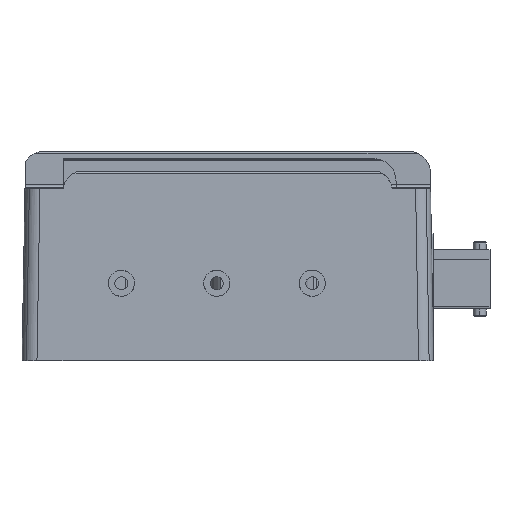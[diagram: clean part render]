
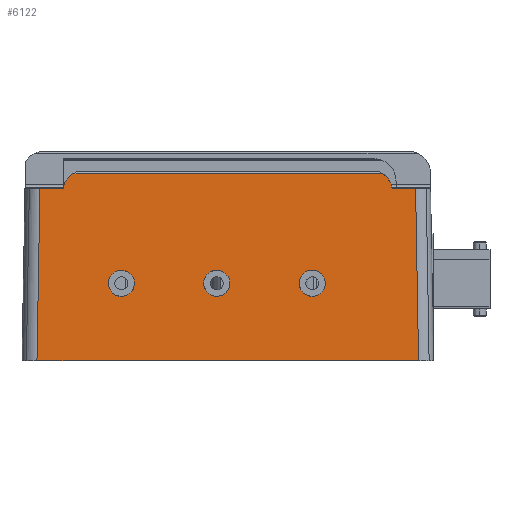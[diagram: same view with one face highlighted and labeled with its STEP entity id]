
A CAD part, left-side view. The second image highlights one B-rep face of the part: STEP entity #6122.
In plain terms, the highlighted planar face has unit normal (-1, 0, 0.017).
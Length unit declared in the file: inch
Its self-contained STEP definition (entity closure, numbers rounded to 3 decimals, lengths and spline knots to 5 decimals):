
#6122=ADVANCED_FACE('',(#11061,#11062,#11063,#11064),#11065,.F.);
#11061=FACE_OUTER_BOUND('',#16728,.T.);
#11062=FACE_BOUND('',#16729,.T.);
#11063=FACE_BOUND('',#16730,.T.);
#11064=FACE_BOUND('',#16731,.T.);
#11065=PLANE('',#16732);
#16728=EDGE_LOOP('',(#26399,#26400,#26401,#26402,#26403,#26404,#26405,#26406));
#16729=EDGE_LOOP('',(#26407,#26408,#26409));
#16730=EDGE_LOOP('',(#26410,#26411));
#16731=EDGE_LOOP('',(#26412,#26413,#26414));
#16732=AXIS2_PLACEMENT_3D('',#26415,#26416,#26417);
#26399=ORIENTED_EDGE('',*,*,#29333,.F.);
#26400=ORIENTED_EDGE('',*,*,#31089,.F.);
#26401=ORIENTED_EDGE('',*,*,#30379,.F.);
#26402=ORIENTED_EDGE('',*,*,#31368,.F.);
#26403=ORIENTED_EDGE('',*,*,#28178,.F.);
#26404=ORIENTED_EDGE('',*,*,#30448,.F.);
#26405=ORIENTED_EDGE('',*,*,#28786,.F.);
#26406=ORIENTED_EDGE('',*,*,#31367,.F.);
#26407=ORIENTED_EDGE('',*,*,#30907,.F.);
#26408=ORIENTED_EDGE('',*,*,#30906,.F.);
#26409=ORIENTED_EDGE('',*,*,#31064,.F.);
#26410=ORIENTED_EDGE('',*,*,#31464,.F.);
#26411=ORIENTED_EDGE('',*,*,#31435,.F.);
#26412=ORIENTED_EDGE('',*,*,#30158,.F.);
#26413=ORIENTED_EDGE('',*,*,#30157,.F.);
#26414=ORIENTED_EDGE('',*,*,#30035,.F.);
#26415=CARTESIAN_POINT('',(6.63867,0.09936,-15.11821));
#26416=DIRECTION('',(1.,0.,-0.017));
#26417=DIRECTION('',(0.,-1.0,0.));
#28178=EDGE_CURVE('',#33058,#33059,#33060,.T.);
#28786=EDGE_CURVE('',#34091,#34092,#34093,.T.);
#29333=EDGE_CURVE('',#34970,#34972,#34973,.T.);
#30035=EDGE_CURVE('',#36003,#36005,#36006,.T.);
#30157=EDGE_CURVE('',#36005,#36179,#36180,.T.);
#30158=EDGE_CURVE('',#36179,#36003,#36181,.T.);
#30379=EDGE_CURVE('',#36481,#36483,#36484,.T.);
#30448=EDGE_CURVE('',#34092,#33058,#36577,.T.);
#30906=EDGE_CURVE('',#37171,#37173,#37174,.T.);
#30907=EDGE_CURVE('',#37173,#37169,#37175,.T.);
#31064=EDGE_CURVE('',#37169,#37171,#37372,.T.);
#31089=EDGE_CURVE('',#36483,#34970,#37410,.T.);
#31367=EDGE_CURVE('',#34972,#34091,#37800,.T.);
#31368=EDGE_CURVE('',#33059,#36481,#37801,.T.);
#31435=EDGE_CURVE('',#37888,#37890,#37891,.T.);
#31464=EDGE_CURVE('',#37890,#37888,#37926,.T.);
#33058=VERTEX_POINT('',#40399);
#33059=VERTEX_POINT('',#40400);
#33060=ELLIPSE('',#40401,0.23626,0.23622);
#34091=VERTEX_POINT('',#42039);
#34092=VERTEX_POINT('',#42040);
#34093=ELLIPSE('',#42041,0.23626,0.23622);
#34970=VERTEX_POINT('',#43459);
#34972=VERTEX_POINT('',#43461);
#34973=LINE('',#43462,#43463);
#36003=VERTEX_POINT('',#45004);
#36005=VERTEX_POINT('',#45007);
#36006=ELLIPSE('',#45008,0.13782,0.1378);
#36179=VERTEX_POINT('',#45291);
#36180=ELLIPSE('',#45292,0.13782,0.1378);
#36181=ELLIPSE('',#45293,0.13782,0.1378);
#36481=VERTEX_POINT('',#45747);
#36483=VERTEX_POINT('',#45749);
#36484=LINE('',#45750,#45751);
#36577=LINE('',#45918,#45919);
#37169=VERTEX_POINT('',#46790);
#37171=VERTEX_POINT('',#46793);
#37173=VERTEX_POINT('',#46796);
#37174=ELLIPSE('',#46797,0.13782,0.1378);
#37175=ELLIPSE('',#46798,0.13782,0.1378);
#37372=ELLIPSE('',#47111,0.13782,0.1378);
#37410=LINE('',#47162,#47163);
#37800=LINE('',#47756,#47757);
#37801=LINE('',#47758,#47759);
#37888=VERTEX_POINT('',#47887);
#37890=VERTEX_POINT('',#47890);
#37891=ELLIPSE('',#47891,0.13782,0.1378);
#37926=ELLIPSE('',#47935,0.13782,0.1378);
#40399=CARTESIAN_POINT('',(6.65717,-1.65622,-14.05452));
#40400=CARTESIAN_POINT('',(6.65442,-1.75984,-14.21284));
#40401=AXIS2_PLACEMENT_3D('',#49202,#49203,#49204);
#42039=CARTESIAN_POINT('',(6.65442,1.70472,-14.21284));
#42040=CARTESIAN_POINT('',(6.65717,1.6011,-14.05452));
#42041=AXIS2_PLACEMENT_3D('',#49844,#49845,#49846);
#43459=CARTESIAN_POINT('',(6.62292,1.98034,-16.02386));
#43461=CARTESIAN_POINT('',(6.65442,1.94884,-14.21284));
#43462=CARTESIAN_POINT('',(6.63921,1.96405,-15.08731));
#43463=VECTOR('',#50463,0.03937);
#45004=CARTESIAN_POINT('',(6.63709,0.95355,-15.20889));
#45007=CARTESIAN_POINT('',(6.63709,1.22914,-15.20889));
#45008=AXIS2_PLACEMENT_3D('',#51238,#51239,#51240);
#45291=CARTESIAN_POINT('',(6.6347,1.09135,-15.34669));
#45292=AXIS2_PLACEMENT_3D('',#51348,#51349,#51350);
#45293=AXIS2_PLACEMENT_3D('',#51351,#51352,#51353);
#45747=CARTESIAN_POINT('',(6.65442,-2.00446,-14.21284));
#45749=CARTESIAN_POINT('',(6.62292,-2.03546,-16.02386));
#45750=CARTESIAN_POINT('',(6.63922,-2.01942,-15.08674));
#45751=VECTOR('',#51559,0.03937);
#45918=CARTESIAN_POINT('',(6.65717,-0.02756,-14.05452));
#45919=VECTOR('',#51610,0.03937);
#46790=CARTESIAN_POINT('',(6.63709,0.2252,-15.20889));
#46793=CARTESIAN_POINT('',(6.63709,-0.05039,-15.20889));
#46796=CARTESIAN_POINT('',(6.63949,0.08741,-15.0711));
#46797=AXIS2_PLACEMENT_3D('',#52027,#52028,#52029);
#46798=AXIS2_PLACEMENT_3D('',#52030,#52031,#52032);
#47111=AXIS2_PLACEMENT_3D('',#52194,#52195,#52196);
#47162=CARTESIAN_POINT('',(6.62292,-0.01206,-16.02386));
#47163=VECTOR('',#52222,0.03937);
#47756=CARTESIAN_POINT('',(6.65442,0.05558,-14.21284));
#47757=VECTOR('',#52436,0.03937);
#47758=CARTESIAN_POINT('',(6.65442,0.05558,-14.21284));
#47759=VECTOR('',#52437,0.03937);
#47887=CARTESIAN_POINT('',(6.6395,-0.91757,-15.07041));
#47890=CARTESIAN_POINT('',(6.63471,-0.91757,-15.346));
#47891=AXIS2_PLACEMENT_3D('',#52477,#52478,#52479);
#47935=AXIS2_PLACEMENT_3D('',#52501,#52502,#52503);
#49202=CARTESIAN_POINT('',(6.65373,-1.52693,-14.25221));
#49203=DIRECTION('',(1.,0.,-0.017));
#49204=DIRECTION('',(0.017,0.,1.));
#49844=CARTESIAN_POINT('',(6.65373,1.47181,-14.25221));
#49845=DIRECTION('',(1.,0.,-0.017));
#49846=DIRECTION('',(0.017,0.,1.));
#50463=DIRECTION('',(0.017,-0.017,1.));
#51238=CARTESIAN_POINT('',(6.63709,1.09135,-15.20889));
#51239=DIRECTION('',(-1.,0.,0.017));
#51240=DIRECTION('',(0.017,0.,1.));
#51348=CARTESIAN_POINT('',(6.63709,1.09135,-15.20889));
#51349=DIRECTION('',(-1.,0.,0.017));
#51350=DIRECTION('',(0.017,0.,1.));
#51351=CARTESIAN_POINT('',(6.63709,1.09135,-15.20889));
#51352=DIRECTION('',(-1.,0.,0.017));
#51353=DIRECTION('',(0.017,0.,1.));
#51559=DIRECTION('',(-0.017,-0.017,-1.));
#51610=DIRECTION('',(0.0,-1.0,0.0));
#52027=CARTESIAN_POINT('',(6.63709,0.08741,-15.20889));
#52028=DIRECTION('',(-1.,0.,0.017));
#52029=DIRECTION('',(-0.017,0.,-1.));
#52030=CARTESIAN_POINT('',(6.63709,0.08741,-15.20889));
#52031=DIRECTION('',(-1.,0.,0.017));
#52032=DIRECTION('',(-0.017,0.,-1.));
#52194=CARTESIAN_POINT('',(6.63709,0.08741,-15.20889));
#52195=DIRECTION('',(-1.,0.,0.017));
#52196=DIRECTION('',(-0.017,0.,-1.));
#52222=DIRECTION('',(0.0,1.0,0.0));
#52436=DIRECTION('',(0.0,-1.0,0.0));
#52437=DIRECTION('',(0.0,-1.0,0.0));
#52477=CARTESIAN_POINT('',(6.63711,-0.91757,-15.2082));
#52478=DIRECTION('',(-1.,0.,0.017));
#52479=DIRECTION('',(0.017,0.,1.));
#52501=CARTESIAN_POINT('',(6.63711,-0.91757,-15.2082));
#52502=DIRECTION('',(-1.,0.,0.017));
#52503=DIRECTION('',(0.017,0.,1.));
